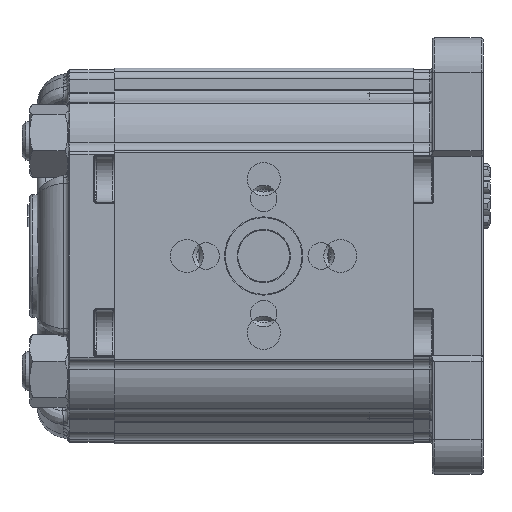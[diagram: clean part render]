
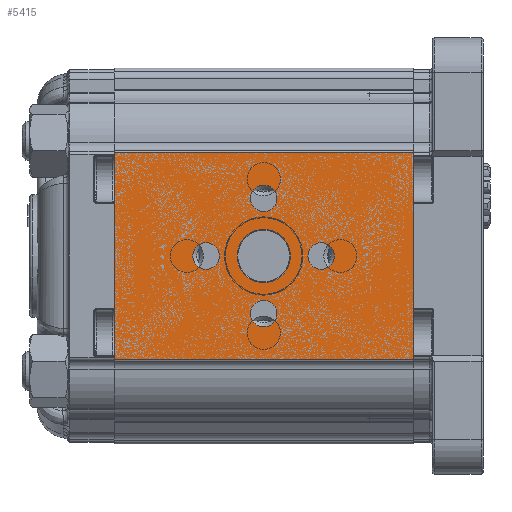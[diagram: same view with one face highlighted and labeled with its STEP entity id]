
A CAD part, left-side view. The second image highlights one B-rep face of the part: STEP entity #5415.
In plain terms, the highlighted planar face has unit normal (-1, 0, 0) as drawn and (1, 0, 0) by its records, which use the part's own axes.
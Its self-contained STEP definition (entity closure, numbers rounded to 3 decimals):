
#5415 = ADVANCED_FACE( '', ( #11167, #11168, #11169, #11170, #11171, #11172 ), #11173, .T. );
#11167 = FACE_BOUND( '', #19789, .T. );
#11168 = FACE_BOUND( '', #19790, .T. );
#11169 = FACE_BOUND( '', #19791, .T. );
#11170 = FACE_BOUND( '', #19792, .T. );
#11171 = FACE_BOUND( '', #19793, .T. );
#11172 = FACE_OUTER_BOUND( '', #19794, .T. );
#11173 = PLANE( '', #19795 );
#19789 = EDGE_LOOP( '', ( #36408 ) );
#19790 = EDGE_LOOP( '', ( #36409 ) );
#19791 = EDGE_LOOP( '', ( #36410 ) );
#19792 = EDGE_LOOP( '', ( #36411 ) );
#19793 = EDGE_LOOP( '', ( #36412 ) );
#19794 = EDGE_LOOP( '', ( #36413, #36414, #36415, #36416 ) );
#19795 = AXIS2_PLACEMENT_3D( '', #36417, #36418, #36419 );
#36408 = ORIENTED_EDGE( '', *, *, #43077, .T. );
#36409 = ORIENTED_EDGE( '', *, *, #40138, .T. );
#36410 = ORIENTED_EDGE( '', *, *, #44030, .T. );
#36411 = ORIENTED_EDGE( '', *, *, #40677, .T. );
#36412 = ORIENTED_EDGE( '', *, *, #39970, .T. );
#36413 = ORIENTED_EDGE( '', *, *, #42185, .F. );
#36414 = ORIENTED_EDGE( '', *, *, #42064, .F. );
#36415 = ORIENTED_EDGE( '', *, *, #41241, .T. );
#36416 = ORIENTED_EDGE( '', *, *, #43264, .T. );
#36417 = CARTESIAN_POINT( '', ( 43., 78., 27.048 ) );
#36418 = DIRECTION( '', ( 1., 0., 0. ) );
#36419 = DIRECTION( '', ( 0., 0., -1. ) );
#39970 = EDGE_CURVE( '', #48268, #48268, #48269, .F. );
#40138 = EDGE_CURVE( '', #48526, #48526, #48527, .F. );
#40677 = EDGE_CURVE( '', #49343, #49343, #49344, .F. );
#41241 = EDGE_CURVE( '', #50185, #50183, #50186, .T. );
#42064 = EDGE_CURVE( '', #50185, #51334, #51337, .T. );
#42185 = EDGE_CURVE( '', #51334, #51506, #51507, .T. );
#43077 = EDGE_CURVE( '', #52615, #52615, #52616, .F. );
#43264 = EDGE_CURVE( '', #50183, #51506, #52844, .T. );
#44030 = EDGE_CURVE( '', #53666, #53666, #53667, .F. );
#48268 = VERTEX_POINT( '', #61867 );
#48269 = CIRCLE( '', #61868, 3.459 );
#48526 = VERTEX_POINT( '', #62265 );
#48527 = CIRCLE( '', #62266, 3.459 );
#49343 = VERTEX_POINT( '', #63862 );
#49344 = CIRCLE( '', #63863, 3.459 );
#50183 = VERTEX_POINT( '', #65514 );
#50185 = VERTEX_POINT( '', #65516 );
#50186 = LINE( '', #65517, #65518 );
#51334 = VERTEX_POINT( '', #67839 );
#51337 = LINE( '', #67843, #67844 );
#51506 = VERTEX_POINT( '', #68115 );
#51507 = LINE( '', #68116, #68117 );
#52615 = VERTEX_POINT( '', #70400 );
#52616 = CIRCLE( '', #70401, 6.95 );
#52844 = LINE( '', #70863, #70864 );
#53666 = VERTEX_POINT( '', #72578 );
#53667 = CIRCLE( '', #72579, 3.459 );
#61867 = CARTESIAN_POINT( '', ( 43., 24., -3.458 ) );
#61868 = AXIS2_PLACEMENT_3D( '', #75566, #75567, #75568 );
#62265 = CARTESIAN_POINT( '', ( 43., 39., -18.459 ) );
#62266 = AXIS2_PLACEMENT_3D( '', #75764, #75765, #75766 );
#63862 = CARTESIAN_POINT( '', ( 43., 39., 11.542 ) );
#63863 = AXIS2_PLACEMENT_3D( '', #76336, #76337, #76338 );
#65514 = CARTESIAN_POINT( '', ( 43., 78., 27.048 ) );
#65516 = CARTESIAN_POINT( '', ( 43., 78., -27.048 ) );
#65517 = CARTESIAN_POINT( '', ( 43., 78., 27.048 ) );
#65518 = VECTOR( '', #77009, 1000. );
#67839 = CARTESIAN_POINT( '', ( 43., 0., -27.048 ) );
#67843 = CARTESIAN_POINT( '', ( 43., 78., -27.048 ) );
#67844 = VECTOR( '', #77844, 1000. );
#68115 = CARTESIAN_POINT( '', ( 43., 0., 27.048 ) );
#68116 = CARTESIAN_POINT( '', ( 43., 0., 27.048 ) );
#68117 = VECTOR( '', #77986, 1000. );
#70400 = CARTESIAN_POINT( '', ( 43., 39., -6.95 ) );
#70401 = AXIS2_PLACEMENT_3D( '', #78820, #78821, #78822 );
#70863 = CARTESIAN_POINT( '', ( 43., 78., 27.048 ) );
#70864 = VECTOR( '', #78983, 1000. );
#72578 = CARTESIAN_POINT( '', ( 43., 54., -3.459 ) );
#72579 = AXIS2_PLACEMENT_3D( '', #79561, #79562, #79563 );
#75566 = CARTESIAN_POINT( '', ( 43., 24., 0. ) );
#75567 = DIRECTION( '', ( 1., 0., 0. ) );
#75568 = DIRECTION( '', ( 0., 0., -1. ) );
#75764 = CARTESIAN_POINT( '', ( 43., 39., -15. ) );
#75765 = DIRECTION( '', ( 1., 0., 0. ) );
#75766 = DIRECTION( '', ( 0., 0., -1. ) );
#76336 = CARTESIAN_POINT( '', ( 43., 39., 15. ) );
#76337 = DIRECTION( '', ( 1., 0., 0. ) );
#76338 = DIRECTION( '', ( 0., 0., -1. ) );
#77009 = DIRECTION( '', ( 0., 0., 1. ) );
#77844 = DIRECTION( '', ( 0., -1., 0. ) );
#77986 = DIRECTION( '', ( 0., 0., 1. ) );
#78820 = CARTESIAN_POINT( '', ( 43., 39., 0. ) );
#78821 = DIRECTION( '', ( 1., 0., 0. ) );
#78822 = DIRECTION( '', ( 0., 0., -1. ) );
#78983 = DIRECTION( '', ( 0., -1., 0. ) );
#79561 = CARTESIAN_POINT( '', ( 43., 54., 0. ) );
#79562 = DIRECTION( '', ( 1., 0., 0. ) );
#79563 = DIRECTION( '', ( 0., 0., -1. ) );
